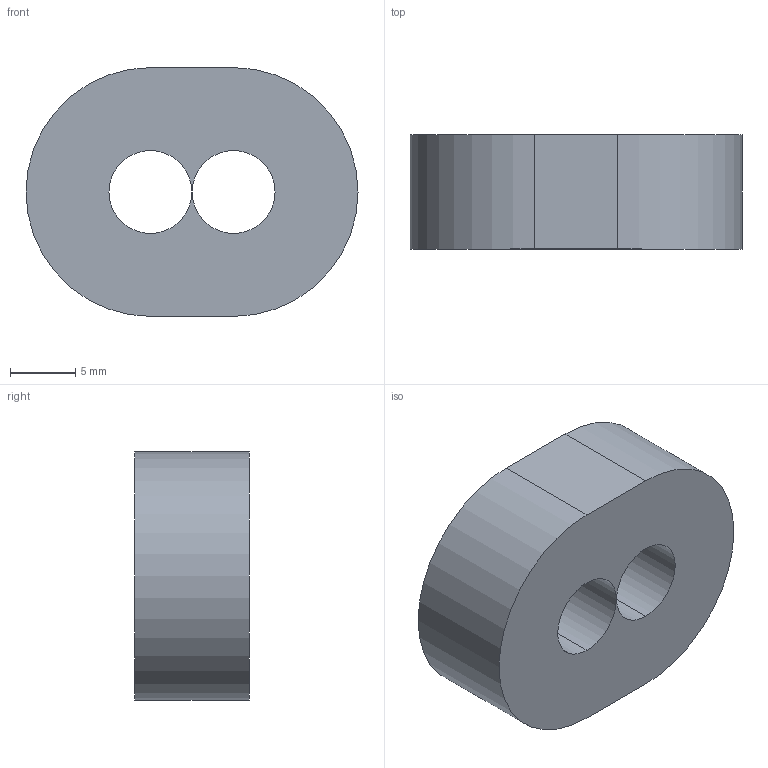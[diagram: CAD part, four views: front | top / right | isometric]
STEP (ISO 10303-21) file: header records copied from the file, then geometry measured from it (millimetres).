
FILE_DESCRIPTION (( 'STEP AP214' ), '1' );
FILE_NAME ('Valve_crank.STEP', '2015-04-16T23:57:28', ( '' ), ( '' ), 'SwSTEP 2.0', 'SolidWorks 2012', '' );
FILE_SCHEMA (( 'AUTOMOTIVE_DESIGN' ));
Length unit declared in the file: inch
Products named in the file (1): Valve_crank
Bounding box: 25.43 x 8.76 x 19.05 mm (x, y, z)
Volume: 3006.9 mm3; surface area: 1672.1 mm2
Topology: 1 solids, 1 shells, 10 faces, 24 edges, 16 vertices
Faces by surface type: cylinder 6, plane 4
Entity records: 348 total; most frequent: DIRECTION 58, CARTESIAN_POINT 51, ORIENTED_EDGE 48, EDGE_CURVE 24, AXIS2_PLACEMENT_3D 23, VERTEX_POINT 16, EDGE_LOOP 14, VECTOR 12
